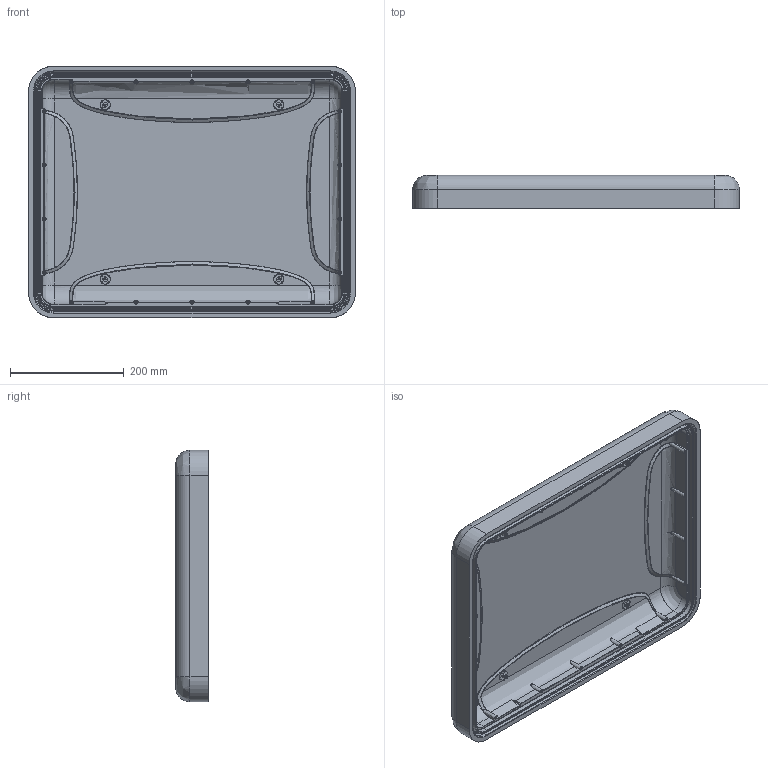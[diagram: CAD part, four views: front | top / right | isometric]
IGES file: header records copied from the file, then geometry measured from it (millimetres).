
Start section: SolidWorks IGES file using analytic representation for surfaces
Global section: file name: C:\Solidworks Files\950 Inner Surfaces\NANUK_950_top_Shell_INNER SURFS_Iges.IGS; native system: SolidWorks 2014; preprocessor: SolidWorks 2014; author: plouimet; date: 140131.131610; units: inch
Bounding box: 573.28 x 57.84 x 441.84 mm (x, y, z)
Surface area: 703781.6 mm2 (no closed solid volume)
Topology: 0 solids, 0 shells, 919 faces, 13251 edges, 13251 vertices
Faces by surface type: bspline 720, revolution 199
